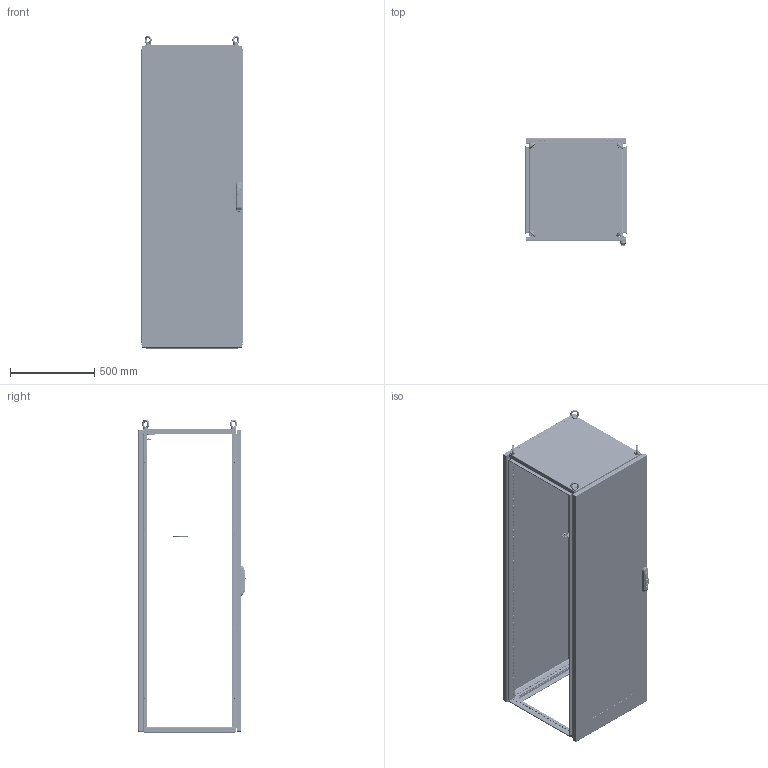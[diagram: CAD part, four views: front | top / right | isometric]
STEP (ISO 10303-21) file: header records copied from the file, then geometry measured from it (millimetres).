
FILE_DESCRIPTION(/* description */ (''),/* implementation_level */ '2;1');
FILE_NAME(/* name */ 'MLA06018060',/* time_stamp */ '2025-09-25T15:00:12+02:00',/* author */ ('INOXVENETA Spa'),/* organization */ ('www.inoxveneta.it '),/* preprocessor_version */ 'ST-DEVELOPER v19.4',/* originating_system */ 'Solid Edge',/* authorisation */ 'Unknown');
FILE_SCHEMA (('AUTOMOTIVE_DESIGN {1 0 10303 214 3 1 1}'));
Products named in the file (69): MLA06018060; F0000001.24; AE00198.03; M000X002.14; M0000000.29; AE00500.10; M000X000.66; M0000000.54; M0000000.39; M0000000.06; AE00219.03; AE00715.01; M000X000.67; M0000000.70; F0000000.18; F000X002.06; F000X002.07; F0000001.47; F0000000.07; AE00100.03_oa_0; AE00100.03_oa_1; AE00100.03_oa_2; AE00100.03_oa_3; F000X000.14; AE00989.12; M0000000.37; AE00701.03; F0000000.13; M000X001.56; F000X002.33_oa_4; F000X002.35_oa_5; F0000001.64_oa_6; F0000000.12; AE00222.15; AE00316.01; AE00992.10_oa_7; AE00992.31; AE00315.01; R1000002.13; AE00992.18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
Assembly tree (259 placements, depth 5):
  MLA06018060
    F0000001.24  x4
    AE00198.03  x16
    M000X002.14
      M0000000.29  x4
      AE00500.10  x48
      M000X000.66  x2
        M0000000.54
        M0000000.39
        M0000000.06
    AE00219.03  x8
    AE00715.01  x4
    M000X000.67
      M0000000.70
    F0000000.18
    F000X002.06
      F000X002.07
        F0000001.47
      F0000000.07  x2
      AE00100.03_oa_0
      AE00100.03_oa_1
      AE00100.03_oa_2
      AE00100.03_oa_3
    F000X000.14
      AE00989.12
    M0000000.37  x8
    AE00701.03  x4
    F0000000.13  x4
    M000X001.56
      F000X002.33_oa_4
        F000X002.35_oa_5
          F0000001.64_oa_6
        F0000000.12  x8
        AE00222.15  x8
        AE00316.01  x8
        AE00992.10_oa_7
        AE00992.31
        AE00315.01  x4
        R1000002.13  x2
        AE00992.18  x4
        AE00992.16
        AE00636.02  x8
        AE00409.01  x8
        AE00417.01  x2
        R000X001.15
          F0000002.21  x2
          F0000003.02  x2
          F0000001.46  x4
        AE00322.01  x4
      AE00413.05  x2
      M0000001.06
      C0000001.45  x2
      AE00322.01  x2
      F0000000.69  x10
      AE00192.01  x10
      ZM090300.001_oa_8
    F0000000.08  x4
    M000X000.49_oa_9
      M0000000.56
      M0000000.57
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Bounding box: 600 x 637.95 x 1856.9 mm (x, y, z)
Volume: 11098913.3 mm3; surface area: 12480828.8 mm2
Topology: 270 solids, 270 shells, 15450 faces, 41870 edges, 27057 vertices
Faces by surface type: plane 9425, cylinder 3839, torus 738, cone 664, bspline 534, sphere 250
Full cylindrical faces by diameter (mm): 0.615 x4, 0.96 x1, 1.231 x4, 2 x4, 2.24 x2, 2.88 x1, 3 x1, 3.242 x2, 3.5 x1, 4 x13, 4.134 x11, 4.25 x172, 4.5 x864, 4.917 x73, 4.918 x8, 5 x13, 5.25 x2, 5.5 x10, 6 x78, 6.1 x20, 6.2 x8, 6.5 x34, 6.647 x6, 7.5 x2, 7.827 x6, 8 x4, 8.3 x8, 8.5 x2, 8.8 x1, 9 x48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
Entity records: 143068 total; most frequent: CARTESIAN_POINT 34048, ORIENTED_EDGE 20892, DIRECTION 20859, EDGE_CURVE 10446, LINE 7155, VECTOR 7155, VERTEX_POINT 7026, AXIS2_PLACEMENT_3D 6852
